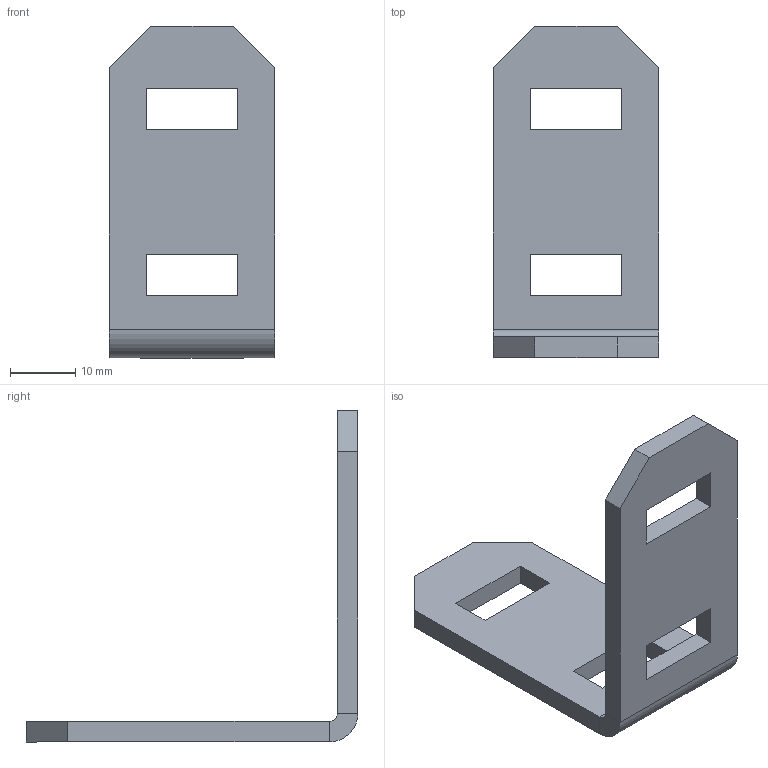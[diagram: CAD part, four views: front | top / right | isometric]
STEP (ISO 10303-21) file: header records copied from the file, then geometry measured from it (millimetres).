
FILE_DESCRIPTION (( 'STEP AP203' ), '1' );
FILE_NAME ('IFI-FRAME-ANG RevA.STEP', '2012-01-16T22:11:17', ( 'vex_intern' ), ( 'Microsoft' ), 'SwSTEP 2.0', 'SolidWorks 2011', '' );
FILE_SCHEMA (( 'CONFIG_CONTROL_DESIGN' ));
Length unit declared in the file: inch
Products named in the file (1): IFI-FRAME-ANG RevA
Bounding box: 25.4 x 50.8 x 50.8 mm (x, y, z)
Volume: 6457.7 mm3; surface area: 5315.4 mm2
Topology: 1 solids, 1 shells, 34 faces, 88 edges, 56 vertices
Faces by surface type: plane 32, cylinder 2
Entity records: 1107 total; most frequent: CARTESIAN_POINT 179, ORIENTED_EDGE 176, DIRECTION 162, EDGE_CURVE 88, LINE 84, VECTOR 84, VERTEX_POINT 56, EDGE_LOOP 42
